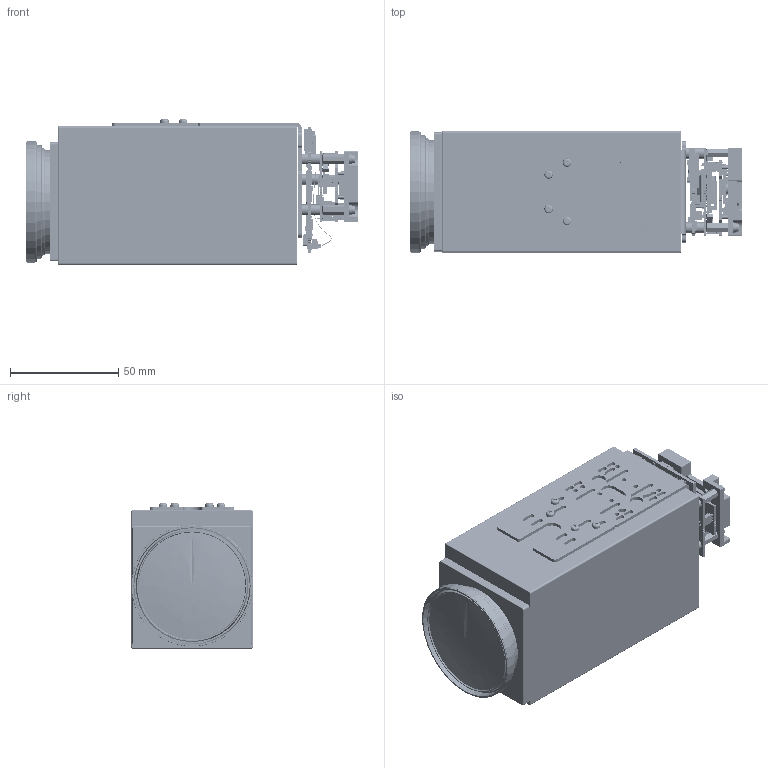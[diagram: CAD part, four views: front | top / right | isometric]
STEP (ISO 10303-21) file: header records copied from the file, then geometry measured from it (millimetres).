
FILE_DESCRIPTION( ( 'Unknown' ), '1' );
FILE_NAME( 'Q:/2003/Product3DCADModels/mm-ap29c01-0168-0101.stp', 'Unknown', ( 'Unknown' ), ( 'Unknown' ), 'PSStep 17.0.49', 'Unknown', ' ' );
FILE_SCHEMA( ( 'AUTOMOTIVE_DESIGN { 1 0 10303 214 1 1 1 1 }' ) );
Length unit declared in the file: millimetre
Products named in the file (675): Lead; Open_CASCADE_STEP_translator_6.8_1.2.1; Lead-1; Lead-3; Lead-4; Lead-6; Lead-7; Lead-2; Lead-5; Pin_Shape; Open_CASCADE_STEP_translator_6.8_17.4.1; FRAME_RUG0010A; Open CASCADE STEP translator 6.8 16.15.1.1.1; Open CASCADE STEP translator 6.8 16.15.1.1.2; Open CASCADE STEP translator 6.8 16.15.1.1.3; Open CASCADE STEP translator 6.8 16.15.1.1.4; Open CASCADE STEP translator 6.8 16.15.1.1.5; Open CASCADE STEP translator 6.8 16.15.1.1.6; Open CASCADE STEP translator 6.8 16.15.1.1.7; Open CASCADE STEP translator 6.8 16.15.1.1.8; Open CASCADE STEP translator 6.8 16.15.1.1.9; Open CASCADE STEP translator 6.8 16.15.1.1.10; DEFAULT; DEFAULT-1; DEFAULT-2; 5993357248; body; MYBSP01201ABF_step_Pin1; MYBSP01201ABF_step; Body; Open_CASCADE_STEP_translator_6.8_17.2.1; 6453125152; Extruded; CHV2010-FX-1003EST; term1; term2; User_Library-OSC_2520; User_Library-Oscillator2520-4pol-1_Cut004; User_Library-Oscillator2520-4pol-1_Zylinder; User_Library-Oscillator2520-4pol-1_Cut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
Assembly tree (1556 placements, depth 7):
  Assem1
    G-806-048H  x4
    G-875-322T  x3
    flexi-01
    EV9500L
    G-106-321A  x3
    heatsink-0389-02
    G-977-016Z  x3
    G-915-068V  x3
    G-080-752R  x3
    bracket-assy
      bracket-0378-02
      G-373-916V  x3
      G-513-075C  x3
    mm-ap29c02-0134-0301
      Board
        Open CASCADE STEP translator 7.5 3.1.1
      J5
        L3-1094
      Z10
        6993085408
          Extruded
      D3
        CD-HD2XL
          Body
          Pins
          Pins
          Pins
          Pins
      D2
        CD-HD2XL
          Body
          Pins
          Pins
          Pins
          Pins
      L11
        CR1608-0603
        CR1608-0603
        CR1608-0603
        CR1608-0603
      L9
        CR1608-0603
        CR1608-0603
        CR1608-0603
        CR1608-0603
      J7
        L3-1094
      J6
        L3-1094
      J4
        L3-1094
      D4
        RB161MM-20TR
        RB161MM-20TR
        RB161MM-20TR
      D1
        RB161MM-20TR
        RB161MM-20TR
        RB161MM-20TR
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Bounding box: 153.35 x 56 x 67.14 mm (x, y, z)
Volume: 451190.5 mm3; surface area: 79333 mm2
Topology: 1167 solids, 1168 shells, 18795 faces, 47381 edges, 30836 vertices
Faces by surface type: plane 15641, cylinder 2513, torus 172, sphere 164, revolution 140, cone 104, bspline 61
Full cylindrical faces by diameter (mm): 0.041 x1, 0.1 x184, 0.15 x1, 0.2 x2, 0.25 x1, 0.5 x1, 0.519 x1, 0.8 x8, 0.9 x8, 1 x1, 1.09 x1, 1.1 x2, 1.12 x2, 1.567 x3, 1.6 x4, 1.729 x8, 2 x12, 2.013 x4, 2.2 x50, 3.88 x7, 4.5 x3, 5 x10, 6.2 x2, 56 x1
Entity records: 367993 total; most frequent: CARTESIAN_POINT 50158, DIRECTION 47776, ORIENTED_EDGE 46113, EDGE_CURVE 23057, LINE 19157, VECTOR 19157, VERTEX_POINT 15259, AXIS2_PLACEMENT_3D 14292
